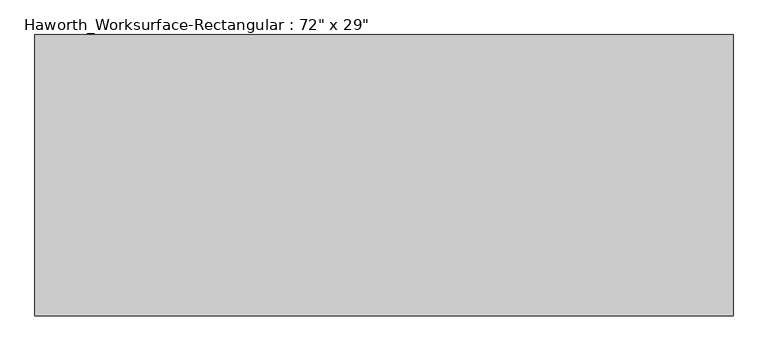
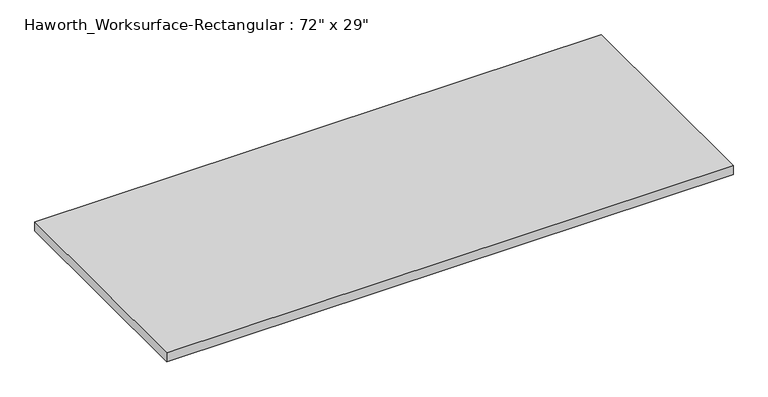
"""IFC4 building model written with IfcOpenShell, lengths in millimetres: furniture geometry."""

import ifcopenshell
import ifcopenshell.guid

model = None  # the IFC model being written
_history = None  # IfcOwnerHistory: only IFC2X3 demands one
_inside = {}  # id of a spatial element -> (the spatial element, [elements in it])
_under = {}  # id of a project, library or spatial element -> (it, [spatial elements below it])
_declared = {}  # id of a project -> (the project, [libraries it declares])
_typed = {}  # id of a type object -> (the type object, [elements of that type])
_made_of = {}  # id of a material, layer set ... -> (it, [elements and type objects made of it])


def new_model(schema):
    """Start an empty IFC model of exactly this schema.

    Asked for "IFC4X3", IfcOpenShell would pick the latest addendum, in which some entities
    have other attributes; the version numbers below select the first issue.
    IFC2X3 requires an IfcOwnerHistory on every rooted entity: one is made here for all.
    """
    global model, _history
    if schema == "IFC4X3":
        model = ifcopenshell.file(schema_version=(4, 3, 0, 0))
    else:
        model = ifcopenshell.file(schema=schema)
    _inside.clear()
    _under.clear()
    _declared.clear()
    _typed.clear()
    _made_of.clear()
    _history = None
    if model.schema == "IFC2X3":
        org = make("IfcOrganization", Name="unknown")
        user = make(
            "IfcPersonAndOrganization",
            ThePerson=make("IfcPerson", FamilyName="unknown"),
            TheOrganization=org,
        )
        app = make(
            "IfcApplication",
            ApplicationDeveloper=org,
            Version="unknown",
            ApplicationFullName="unknown",
            ApplicationIdentifier="unknown",
        )
        _history = make(
            "IfcOwnerHistory",
            OwningUser=user,
            OwningApplication=app,
            ChangeAction="ADDED",
            CreationDate=0,
        )
    return model


def make(cls, **values):
    """One entity of the class cls with the attributes given. An attribute that is None is left unset."""
    return model.create_entity(
        cls, **{name: value for name, value in values.items() if value is not None}
    )


def rooted(cls, **values):
    """An entity with a GlobalId (a new one), such as an element, a storey or a relation."""
    return make(cls, GlobalId=ifcopenshell.guid.new(), OwnerHistory=_history, **values)


def si_unit(unit_type, name, prefix=None):
    """IfcSIUnit, for example si_unit("LENGTHUNIT", "METRE", prefix="MILLI")."""
    return make("IfcSIUnit", UnitType=unit_type, Prefix=prefix, Name=name)


def assignment(units):
    """IfcUnitAssignment: the units of a project."""
    return None if units is None else make("IfcUnitAssignment", Units=units)


def point(xyz):
    """IfcCartesianPoint."""
    return None if xyz is None else make("IfcCartesianPoint", Coordinates=xyz)


def direction(xyz):
    """IfcDirection."""
    return None if xyz is None else make("IfcDirection", DirectionRatios=xyz)


def frame(location, z_axis=None, x_axis=None):
    """IfcAxis2Placement3D, a coordinate frame: its origin and axes. An axis left out is left unset."""
    return make(
        "IfcAxis2Placement3D",
        Location=point(location),
        Axis=direction(z_axis),
        RefDirection=direction(x_axis),
    )


def origin():
    """The frame at (0, 0, 0) with its axes left unset."""
    return frame((0.0, 0.0, 0.0))


def place(relative_to, where):
    """IfcLocalPlacement: puts the frame where relative to a parent placement (None: the world)."""
    return make(
        "IfcLocalPlacement", PlacementRelTo=relative_to, RelativePlacement=where
    )


def context(
    kind, dimensions, precision=None, world=None, true_north=None, identifier=None
):
    """IfcGeometricRepresentationContext, for example the 3D "Model" context."""
    return make(
        "IfcGeometricRepresentationContext",
        ContextIdentifier=identifier,
        ContextType=kind,
        CoordinateSpaceDimension=dimensions,
        Precision=precision,
        WorldCoordinateSystem=world,
        TrueNorth=true_north,
    )


def project(units=None, contexts=None):
    """IfcProject with its units and contexts."""
    return rooted(
        "IfcProject",
        Name="project",
        RepresentationContexts=contexts,
        UnitsInContext=assignment(units),
    )


def spatial(cls, under=None, at=None, **own):
    """A site, building, storey or space (cls), placed at a placement, below another one or the project."""
    s = rooted(cls, ObjectPlacement=at, **own)
    if under is not None:
        _under.setdefault(under.id(), (under, []))[1].append(s)
    return s


def polyline(points):
    """IfcPolyline through the points."""
    return make("IfcPolyline", Points=[point(p) for p in points])


def outline(outer, holes=None, kind="AREA"):
    """IfcArbitraryClosedProfileDef: a profile drawn as a closed curve; with holes, ...WithVoids."""
    if holes is None:
        return make("IfcArbitraryClosedProfileDef", ProfileType=kind, OuterCurve=outer)
    return make(
        "IfcArbitraryProfileDefWithVoids",
        ProfileType=kind,
        OuterCurve=outer,
        InnerCurves=holes,
    )


def extrude(swept, where, along, depth):
    """IfcExtrudedAreaSolid: the profile swept, set in the frame where, extruded along a direction by depth."""
    return make(
        "IfcExtrudedAreaSolid",
        SweptArea=swept,
        Position=where,
        ExtrudedDirection=direction(along),
        Depth=depth,
    )


def shape(context_of_items, identifier, shape_type, items):
    """IfcShapeRepresentation: the items that make up one representation, for example the "Body"."""
    return make(
        "IfcShapeRepresentation",
        ContextOfItems=context_of_items,
        RepresentationIdentifier=identifier,
        RepresentationType=shape_type,
        Items=items,
    )


def source(mapping_origin, context_of_items, identifier, shape_type, items):
    """IfcRepresentationMap: a shape defined once, which mapped items show again and again."""
    return make(
        "IfcRepresentationMap",
        MappingOrigin=mapping_origin,
        MappedRepresentation=shape(context_of_items, identifier, shape_type, items),
    )


def transform(
    local_origin,
    x_axis=None,
    y_axis=None,
    z_axis=None,
    scale=None,
    scale2=None,
    scale3=None,
    uniform=True,
):
    """IfcCartesianTransformationOperator3D, or its non-uniform kind. x_axis, y_axis, z_axis: its Axis1, 2, 3."""
    if uniform:
        return make(
            "IfcCartesianTransformationOperator3D",
            Axis1=direction(x_axis),
            Axis2=direction(y_axis),
            LocalOrigin=point(local_origin),
            Scale=scale,
            Axis3=direction(z_axis),
        )
    return make(
        "IfcCartesianTransformationOperator3DnonUniform",
        Axis1=direction(x_axis),
        Axis2=direction(y_axis),
        LocalOrigin=point(local_origin),
        Scale=scale,
        Axis3=direction(z_axis),
        Scale2=scale2,
        Scale3=scale3,
    )


def mapped(mapping_source, mapping_target):
    """IfcMappedItem: shows the shape of a source again, moved by a transform."""
    return make(
        "IfcMappedItem", MappingSource=mapping_source, MappingTarget=mapping_target
    )


def made_of(thing, what):
    """Note that an element or type object is made of a material, layer set ...; save() writes the relation."""
    if what is not None:
        _made_of.setdefault(what.id(), (what, []))[1].append(thing)
    return thing


def element(
    cls,
    number,
    at=None,
    inside=None,
    cuts=None,
    type_object=None,
    material=None,
    context=None,
    identifier="Body",
    shape_type=None,
    held_by="IfcProductDefinitionShape",
    body=None,
    shapes=None,
    **own,
):
    """One element of the class cls, such as IfcWall. Its Tag is "e" and its number.

    at: its placement. inside: the storey or other place that contains it. cuts: it is an
    opening in that element (IfcRelVoidsElement). A single representation is given by context,
    identifier, shape_type and body (its items); several are given by shapes. held_by: the class
    of the entity that holds the representations. save() writes the other relations.
    """
    e = rooted(cls, Tag="e%d" % number, ObjectPlacement=at, **own)
    if body is not None:
        shapes = [shape(context, identifier, shape_type, body)]
    if shapes is not None:
        e.Representation = make(held_by, Representations=shapes)
    if inside is not None:
        _inside.setdefault(inside.id(), (inside, []))[1].append(e)
    if cuts is not None:
        rooted(
            "IfcRelVoidsElement", RelatingBuildingElement=cuts, RelatedOpeningElement=e
        )
    if type_object is not None:
        _typed.setdefault(type_object.id(), (type_object, []))[1].append(e)
    return made_of(e, material)


def aggregate(whole, parts):
    """IfcRelAggregates: a whole, such as a stair, and the parts it consists of."""
    return rooted("IfcRelAggregates", RelatingObject=whole, RelatedObjects=parts)


def save(model, path):
    """Write the relations noted so far, then the file.

    IfcRelAggregates (storeys below a building ...), IfcRelContainedInSpatialStructure (elements
    in a storey), IfcRelDefinesByType, IfcRelAssociatesMaterial and IfcRelDeclares: one each for
    every whole, place, type object, material and project.
    """
    for whole, parts in _under.values():
        aggregate(whole, parts)
    for where, things in _inside.values():
        rooted(
            "IfcRelContainedInSpatialStructure",
            RelatedElements=things,
            RelatingStructure=where,
        )
    for kind, things in _typed.values():
        rooted("IfcRelDefinesByType", RelatedObjects=things, RelatingType=kind)
    for what, things in _made_of.values():
        rooted("IfcRelAssociatesMaterial", RelatedObjects=things, RelatingMaterial=what)
    for by, libraries in _declared.values():
        rooted("IfcRelDeclares", RelatingContext=by, RelatedDefinitions=libraries)
    model.write(path)


def furniture_0e3993a4(model_context):
    return source(origin(), model_context, "Body", "SweptSolid", [
        extrude(outline(polyline([(914.4, -368.3), (-914.4, -368.3), (-914.4, 368.3), (914.4, 368.3), (914.4, -368.3)])), frame((0.0, 0.0, 706.4375), z_axis=(0.0, 0.0, 1.0), x_axis=(1.0, 0.0, 0.0)), (0.0, 0.0, 1.0), 30.1625),
    ])


if __name__ == "__main__":
    model = new_model("IFC4")
    model_context = context("Model", 3, world=origin())
    ifc_project = project(units=[si_unit("LENGTHUNIT", "METRE", prefix="MILLI")], contexts=[model_context])
    site = spatial("IfcSite", under=ifc_project)
    building = spatial("IfcBuilding", under=site)
    placement = place(None, origin())
    furniture_shape = furniture_0e3993a4(model_context)
    element("IfcFurniture", 1, ObjectType="Haworth_Worksurface-Rectangular : 72\" x 29\"", at=placement, inside=building, context=model_context, shape_type="MappedRepresentation", body=[
        mapped(furniture_shape, transform((0.0, 0.0, 0.0), x_axis=(1.0, 0.0, 0.0), y_axis=(0.0, 1.0, 0.0), z_axis=(0.0, 0.0, 1.0))),
    ])
    save(model, "model.ifc")
